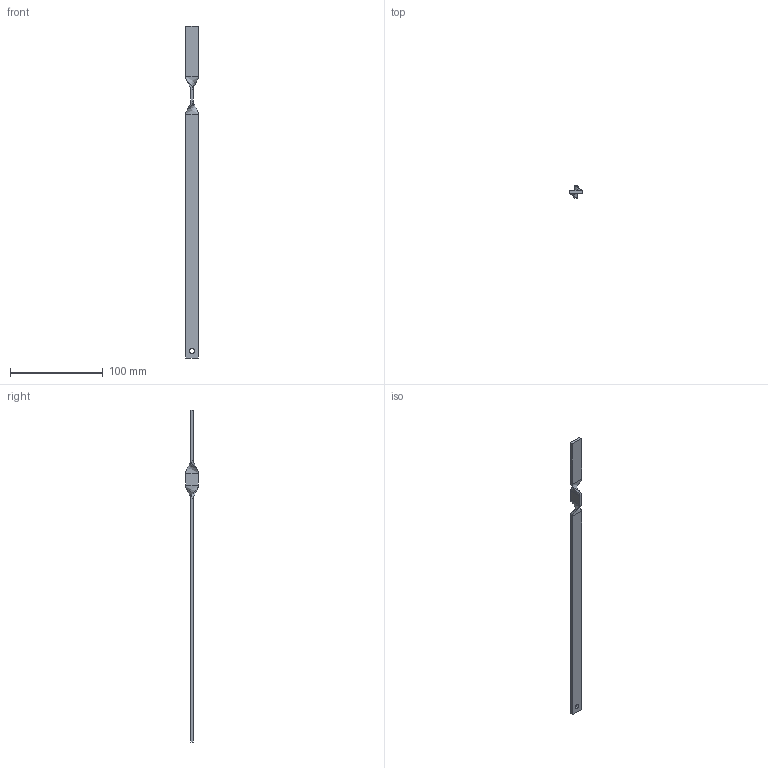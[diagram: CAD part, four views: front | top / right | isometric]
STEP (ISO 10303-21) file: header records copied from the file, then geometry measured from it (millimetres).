
FILE_DESCRIPTION (( 'STEP AP214' ), '1' );
FILE_NAME ('P190-351.STEP', '2016-08-18T09:18:47', ( 'RST-Dolba' ), ( '' ), 'SwSTEP 2.0', 'SolidWorks 2015', '' );
FILE_SCHEMA (( 'AUTOMOTIVE_DESIGN' ));
Length unit declared in the file: millimetre
Products named in the file (1): P190-351
Bounding box: 14 x 14 x 358.5 mm (x, y, z)
Volume: 14669.9 mm3; surface area: 12188 mm2
Topology: 1 solids, 1 shells, 24 faces, 50 edges, 28 vertices
Faces by surface type: plane 14, bspline 8, cylinder 2
Entity records: 784 total; most frequent: CARTESIAN_POINT 279, ORIENTED_EDGE 100, DIRECTION 80, EDGE_CURVE 50, VECTOR 38, LINE 38, VERTEX_POINT 28, EDGE_LOOP 26
